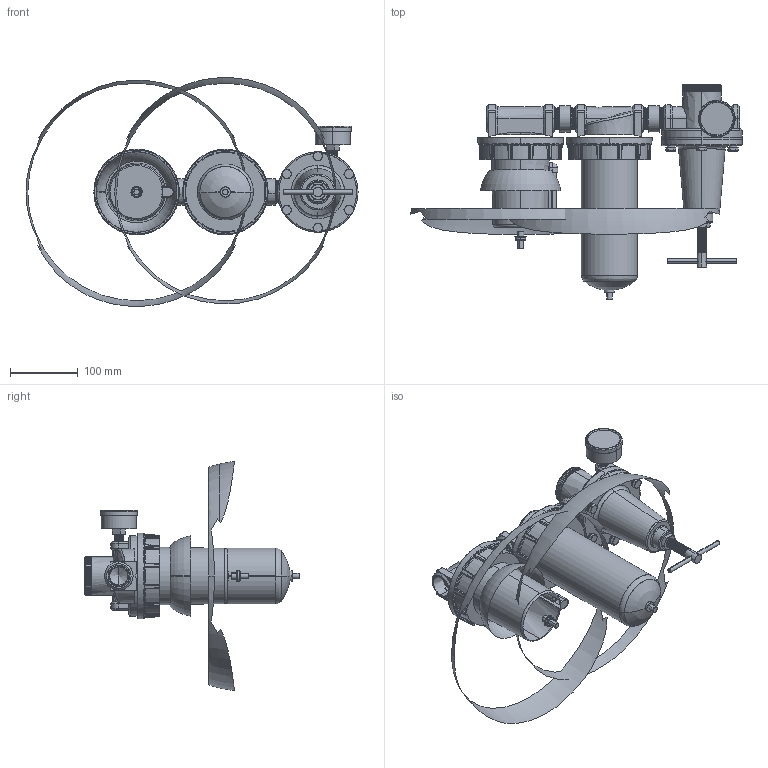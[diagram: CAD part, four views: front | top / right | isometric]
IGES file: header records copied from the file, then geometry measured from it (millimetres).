
Start section: SolidWorks IGES file using analytic representation for surfaces
Global section: file name: C:\Users\Toshiba\Desktop\C728#W#-08YB#.IGS; native system: SolidWorks 2014; preprocessor: SolidWorks 2014; author: Toshiba; date: 160216.113646; units: millimetre
Bounding box: 489.98 x 316 x 338.09 mm (x, y, z)
Surface area: 419845.4 mm2 (no closed solid volume)
Topology: 0 solids, 0 shells, 1553 faces, 18800 edges, 18770 vertices
Faces by surface type: bspline 783, revolution 770
